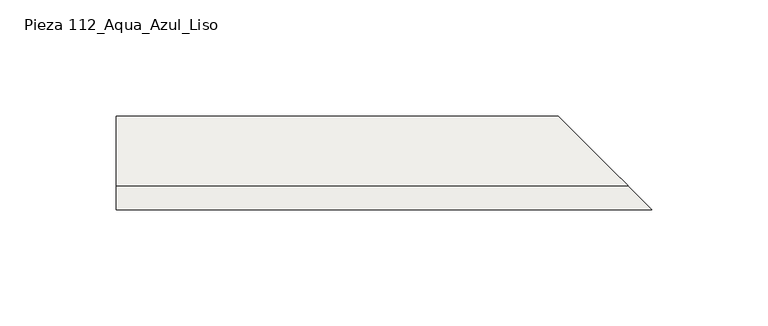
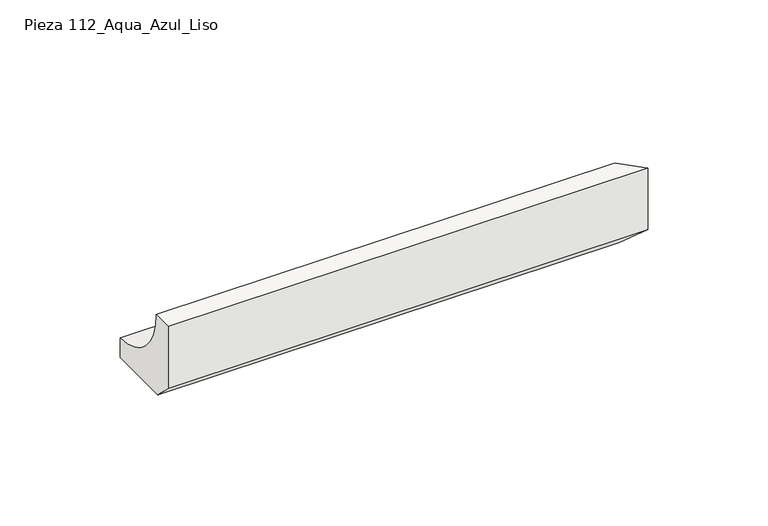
"""IFC4 building model written with IfcOpenShell, lengths in millimetres: slab geometry, ROSA GRES_112 (corte) : Pieza 112_Aqua_Azul_Liso."""

from ifc_helpers import new_model, si_unit, frame, origin, place, context, project, spatial, polyline, circle_curve, ellipse_curve, source, transform, mapped, element, save
from ifc_brep_helpers import plane_surface, revolved_surface, advanced_brep


def pieza_112_aqua_azul_liso_d53efc4b(model_context):
    return source(origin(), model_context, "Body", "AdvancedBrep", [
        advanced_brep(
        [(0.0, 0.0, 8.7114978), (0.0, 0.0, 40.0), (0.0, 9.9734114, 40.0), (0.0, 40.0, 9.9734114), (0.0, 40.0, 0.0), (0.0, 8.7114978, 0.0), (229.9, 0.0, 8.7114978), (229.9, 0.0, 40.0), (219.9265886, 9.9734114, 40.0), (189.9, 40.0, 9.9734114), (189.9, 40.0, 0.0), (221.1885022, 8.7114978, 0.0)],
        [
            (0, 1),
            (1, 2),
            (2, 3, circle_curve(frame((0.0, 39.9955547, 39.9955547), z_axis=(1.0, 0.0, 0.0), x_axis=(0.0, 1.0, 0.0)), 30.0221435)),
            (3, 4),
            (4, 5),
            (5, 0),
            (0, 6),
            (6, 7),
            (7, 1),
            (7, 8),
            (8, 2),
            (8, 9, ellipse_curve(frame((189.9044453, 39.9955547, 39.9955547), z_axis=(0.7071067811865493, 0.7071067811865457, 0.0), x_axis=(0.7071067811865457, -0.7071067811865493, 0.0)), 42.4577226, 30.0221435)),
            (9, 3),
            (9, 10),
            (10, 4),
            (10, 11),
            (11, 5),
            (11, 6),
        ],
        [
            plane_surface(frame((0.0, 0.0, 0.0), z_axis=(-1.0, 0.0, 0.0), x_axis=(0.0, 0.0, 1.0))),
            plane_surface(frame((0.0, 0.0, 8.7114978), z_axis=(0.0, -1.0, 0.0), x_axis=(1.0, 0.0, 0.0))),
            plane_surface(frame((0.0, 0.0, 40.0), z_axis=(0.0, 0.0, 1.0), x_axis=(1.0, 0.0, 0.0))),
            revolved_surface(polyline([(219.92658886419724, 70.0176982, 39.9955547), (0.0, 70.0176982, 39.9955547)]), (0.0, 39.9955547, 39.9955547), (1.0, 0.0, 0.0)),
            plane_surface(frame((0.0, 40.0, 9.9734114), z_axis=(0.0, 1.0, 0.0), x_axis=(1.0, 0.0, 0.0))),
            plane_surface(frame((0.0, 40.0, 0.0), z_axis=(0.0, 0.0, -1.0), x_axis=(1.0, 0.0, 0.0))),
            plane_surface(frame((0.0, 8.7114978, 0.0), z_axis=(0.0, -0.7071067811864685, -0.7071067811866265), x_axis=(1.0, 0.0, 0.0))),
            plane_surface(frame((189.4, 40.5, 104.9871832), z_axis=(0.7071067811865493, 0.7071067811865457, 0.0), x_axis=(0.0, 0.0, -1.0))),
        ],
        [
            (0, [[1, 2, 3, 4, 5, 6]]),
            (1, [[-1, 7, 8, 9]]),
            (2, [[-2, -9, 10, 11]]),
            (3, [[-3, -11, 12, 13]]),
            (4, [[-4, -13, 14, 15]]),
            (5, [[-5, -15, 16, 17]]),
            (6, [[-6, -17, 18, -7]]),
            (7, [[-8, -18, -16, -14, -12, -10]]),
        ],
    ),
    ])


if __name__ == "__main__":
    model = new_model("IFC4")
    model_context = context("Model", 3, world=origin())
    ifc_project = project(units=[si_unit("LENGTHUNIT", "METRE", prefix="MILLI")], contexts=[model_context])
    site = spatial("IfcSite", under=ifc_project)
    building = spatial("IfcBuilding", under=site)
    placement = place(None, origin())
    pieza_112_aqua_azul_liso_shape = pieza_112_aqua_azul_liso_d53efc4b(model_context)
    element("IfcSlab", 1, ObjectType="ROSA GRES_112 (corte) : Pieza 112_Aqua_Azul_Liso", at=placement, inside=building, context=model_context, shape_type="MappedRepresentation", body=[
        mapped(pieza_112_aqua_azul_liso_shape, transform((0.0, 0.0, 0.0), x_axis=(1.0, 0.0, 0.0), y_axis=(0.0, 1.0, 0.0), z_axis=(0.0, 0.0, 1.0))),
    ])
    save(model, "model.ifc")
